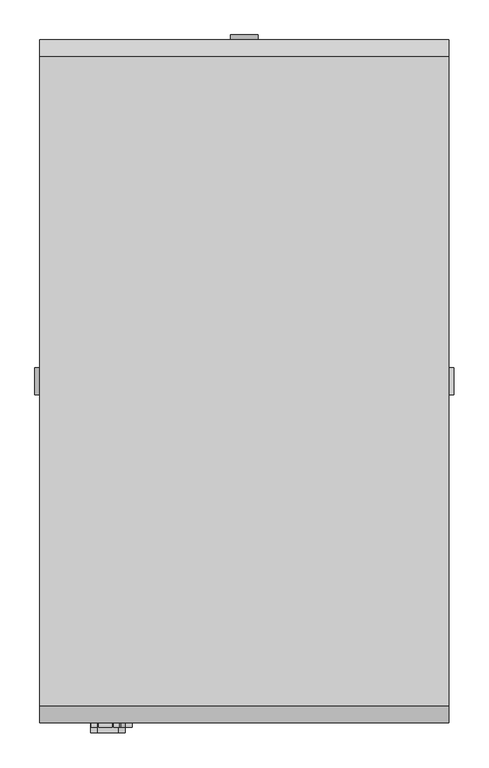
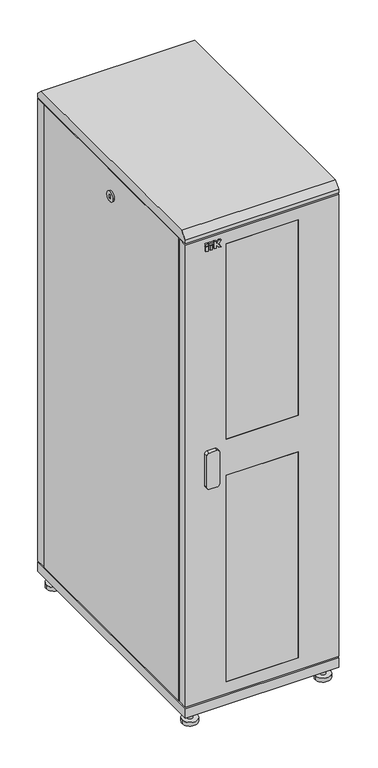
"""IFC4 building model written with IfcOpenShell, lengths in millimetres: proxy geometry, Шкафы ITK серия S_PP : LS35-42U61-PP-1."""

from ifc_helpers import new_model, si_unit, point, frame, frame_2d, origin, origin_with_axes, place, context, project, spatial, polyline, circle_curve, trimmed, segment, composite_curve, outline, extrude, faceted_brep, source, transform, mapped, element, save


def electrical_fixtures_315027d0(model_context):
    return source(origin(), model_context, "Body", "SolidModel", [
        extrude(outline(polyline([(-215.9746193, -507.0), (-224.197592, -507.0), (-224.197592, -500.0), (-215.9746193, -500.0), (-215.9746193, -507.0)])), frame((0.0, 0.0, 1955.0), z_axis=(0.0, 0.0, 1.0), x_axis=(1.0, 0.0, 0.0)), (0.0, 0.0, 1.0), 18.8087618),
        extrude(outline(polyline([(-199.9605777, -507.0), (-207.7053315, -507.0), (-207.7053315, -500.0), (-199.9605777, -500.0), (-199.9605777, -507.0)])), frame((0.0, 0.0, 1955.0), z_axis=(0.0, 0.0, 1.0), x_axis=(1.0, 0.0, 0.0)), (0.0, 0.0, 1.0), 18.8087618),
        extrude(outline(polyline([(-215.9746193, -507.0), (-224.197592, -507.0), (-224.197592, -500.0), (-215.9746193, -500.0), (-215.9746193, -507.0)])), frame((0.0, 0.0, 1976.4305892), z_axis=(0.0, 0.0, 1.0), x_axis=(1.0, 0.0, 0.0)), (0.0, 0.0, 1.0), 7.9794747),
        extrude(outline(polyline([(1955.0, -191.5184175), (1955.0, -183.7669278), (1966.0271455, -183.7669278), (1966.0271455, -180.8031229), (1955.0, -173.6420108), (1955.0, -164.197592), (1969.7278745, -174.8980192), (1984.410064, -164.197592), (1984.410064, -173.6420108), (1973.3829184, -180.8031229), (1973.3829184, -183.7669278), (1984.410064, -183.7669278), (1984.410064, -191.5184175), (1955.0, -191.5184175)])), frame((0.0, -507.0, 0.0), z_axis=(0.0, 1.0, 0.0), x_axis=(0.0, 0.0, 1.0)), (0.0, 0.0, 1.0), 7.0),
        extrude(outline(polyline([(-194.0851324, -507.0), (-213.5807768, -507.0), (-213.5807768, -500.0), (-194.0851324, -500.0), (-194.0851324, -507.0)])), frame((0.0, 0.0, 1976.4305892), z_axis=(0.0, 0.0, 1.0), x_axis=(1.0, 0.0, 0.0)), (0.0, 0.0, 1.0), 7.9794747),
        extrude(outline(composite_curve([segment(polyline([(1125.0, -185.0), (1125.0, -215.0)]), True, "CONTINUOUS"), segment(trimmed(circle_curve(frame_2d((1115.0, -215.0)), 10.0), [point((1125.0, -215.0))], [point((1115.0, -225.0))], False, "CARTESIAN"), True, "CONTINUOUS"), segment(polyline([(1115.0, -225.0), (985.0, -225.0)]), True, "CONTINUOUS"), segment(trimmed(circle_curve(frame_2d((985.0, -215.0)), 10.0), [point((985.0, -225.0))], [point((975.0, -215.0))], False, "CARTESIAN"), True, "CONTINUOUS"), segment(polyline([(975.0, -215.0), (975.0, -185.0)]), True, "CONTINUOUS"), segment(trimmed(circle_curve(frame_2d((985.0, -185.0)), 10.0), [point((975.0, -185.0))], [point((985.0, -175.0))], False, "CARTESIAN"), True, "CONTINUOUS"), segment(polyline([(985.0, -175.0), (1115.0, -175.0)]), True, "CONTINUOUS"), segment(trimmed(circle_curve(frame_2d((1115.0, -185.0)), 10.0), [point((1115.0, -175.0))], [point((1125.0, -185.0))], False, "CARTESIAN"), True, "CONTINUOUS")], self_intersect=False)), frame((0.0, -515.0, 0.0), z_axis=(0.0, 1.0, 0.0), x_axis=(0.0, 0.0, 1.0)), (0.0, 0.0, 1.0), 15.0),
        faceted_brep([(-260.0, -480.0, 2005.0), (-260.0, -445.0, 2005.0), (-270.0, -445.0, 2005.0), (-270.0, -460.0, 2005.0), (-300.0, -460.0, 2005.0), (-300.0, -500.0, 2005.0), (300.0, -500.0, 2005.0), (300.0, -460.0, 2005.0), (270.0, -460.0, 2005.0), (270.0, -445.0, 2005.0), (260.0, -445.0, 2005.0), (260.0, -480.0, 2005.0), (-300.0, -500.0, 95.0), (-300.0, -460.0, 95.0), (-270.0, -460.0, 95.0), (-270.0, -445.0, 95.0), (-260.0, -445.0, 95.0), (-260.0, -480.0, 95.0), (260.0, -480.0, 95.0), (260.0, -445.0, 95.0), (270.0, -445.0, 95.0), (270.0, -460.0, 95.0), (300.0, -460.0, 95.0), (300.0, -500.0, 95.0), (-140.0, -500.0, 997.5), (140.0, -500.0, 997.5), (140.0, -500.0, 145.0), (-140.0, -500.0, 145.0), (-140.0, -500.0, 1955.0), (140.0, -500.0, 1955.0), (140.0, -500.0, 1147.5), (-140.0, -500.0, 1147.5), (-140.0, -480.0, 145.0), (140.0, -480.0, 145.0), (140.0, -480.0, 997.5), (-140.0, -480.0, 997.5), (-140.0, -480.0, 1147.5), (140.0, -480.0, 1147.5), (140.0, -480.0, 1955.0), (-140.0, -480.0, 1955.0)], [[[0, 1, 2, 3, 4, 5, 6, 7, 8, 9, 10, 11]], [[12, 13, 14, 15, 16, 17, 18, 19, 20, 21, 22, 23]], [[6, 5, 12, 23], [24, 25, 26, 27], [28, 29, 30, 31]], [[5, 4, 13, 12]], [[4, 3, 14, 13]], [[0, 11, 18, 17], [32, 33, 34, 35], [36, 37, 38, 39]], [[32, 35, 24, 27]], [[36, 39, 28, 31]], [[34, 33, 26, 25]], [[38, 37, 30, 29]], [[27, 26, 33, 32]], [[31, 30, 37, 36]], [[25, 24, 35, 34]], [[29, 28, 39, 38]], [[1, 0, 17, 16]], [[2, 1, 16, 15]], [[3, 2, 15, 14]], [[7, 6, 23, 22]], [[8, 7, 22, 21]], [[9, 8, 21, 20]], [[10, 9, 20, 19]], [[11, 10, 19, 18]]]),
        extrude(outline(polyline([(140.0, -500.0), (-140.0, -500.0), (-140.0, -480.0), (140.0, -480.0), (140.0, -500.0)])), frame((0.0, 0.0, 1147.5), z_axis=(0.0, 0.0, 1.0), x_axis=(1.0, 0.0, 0.0)), (0.0, 0.0, 1.0), 807.5),
        extrude(outline(polyline([(140.0, -500.0), (-140.0, -500.0), (-140.0, -480.0), (140.0, -480.0), (140.0, -500.0)])), frame((0.0, 0.0, 145.0), z_axis=(0.0, 0.0, 1.0), x_axis=(1.0, 0.0, 0.0)), (0.0, 0.0, 1.0), 852.5),
        extrude(outline(composite_curve([segment(trimmed(circle_curve(frame_2d((-260.0, 460.0)), 10.0), [point((-250.0, 460.0))], [point((-270.0, 460.0))], False, "CARTESIAN"), True, "CONTINUOUS"), segment(trimmed(circle_curve(frame_2d((-260.0, 460.0)), 10.0), [point((-270.0, 460.0))], [point((-250.0, 460.0))], False, "CARTESIAN"), True, "CONTINUOUS")], self_intersect=False)), frame((0.0, 0.0, 15.0), z_axis=(0.0, 0.0, 1.0), x_axis=(1.0, 0.0, 0.0)), (0.0, 0.0, 1.0), 35.0),
        extrude(outline(composite_curve([segment(trimmed(circle_curve(frame_2d((260.0, 460.0)), 10.0), [point((270.0, 460.0))], [point((250.0, 460.0))], False, "CARTESIAN"), True, "CONTINUOUS"), segment(trimmed(circle_curve(frame_2d((260.0, 460.0)), 10.0), [point((250.0, 460.0))], [point((270.0, 460.0))], False, "CARTESIAN"), True, "CONTINUOUS")], self_intersect=False)), frame((0.0, 0.0, 15.0), z_axis=(0.0, 0.0, 1.0), x_axis=(1.0, 0.0, 0.0)), (0.0, 0.0, 1.0), 35.0),
        extrude(outline(composite_curve([segment(trimmed(circle_curve(frame_2d((-260.0, -460.0)), 10.0), [point((-250.0, -460.0))], [point((-270.0, -460.0))], False, "CARTESIAN"), True, "CONTINUOUS"), segment(trimmed(circle_curve(frame_2d((-260.0, -460.0)), 10.0), [point((-270.0, -460.0))], [point((-250.0, -460.0))], False, "CARTESIAN"), True, "CONTINUOUS")], self_intersect=False)), frame((0.0, 0.0, 15.0), z_axis=(0.0, 0.0, 1.0), x_axis=(1.0, 0.0, 0.0)), (0.0, 0.0, 1.0), 35.0),
        extrude(outline(composite_curve([segment(trimmed(circle_curve(frame_2d((260.0, -460.0)), 10.0), [point((270.0, -460.0))], [point((250.0, -460.0))], False, "CARTESIAN"), True, "CONTINUOUS"), segment(trimmed(circle_curve(frame_2d((260.0, -460.0)), 10.0), [point((250.0, -460.0))], [point((270.0, -460.0))], False, "CARTESIAN"), True, "CONTINUOUS")], self_intersect=False)), frame((0.0, 0.0, 15.0), z_axis=(0.0, 0.0, 1.0), x_axis=(1.0, 0.0, 0.0)), (0.0, 0.0, 1.0), 35.0),
        extrude(outline(composite_curve([segment(trimmed(circle_curve(frame_2d((-260.0, 460.0)), 30.0), [point((-230.0, 460.0))], [point((-290.0, 460.0))], False, "CARTESIAN"), True, "CONTINUOUS"), segment(trimmed(circle_curve(frame_2d((-260.0, 460.0)), 30.0), [point((-290.0, 460.0))], [point((-230.0, 460.0))], False, "CARTESIAN"), True, "CONTINUOUS")], self_intersect=False)), origin_with_axes(), (0.0, 0.0, 1.0), 15.0),
        extrude(outline(composite_curve([segment(trimmed(circle_curve(frame_2d((260.0, 460.0)), 30.0), [point((290.0, 460.0))], [point((230.0, 460.0))], False, "CARTESIAN"), True, "CONTINUOUS"), segment(trimmed(circle_curve(frame_2d((260.0, 460.0)), 30.0), [point((230.0, 460.0))], [point((290.0, 460.0))], False, "CARTESIAN"), True, "CONTINUOUS")], self_intersect=False)), origin_with_axes(), (0.0, 0.0, 1.0), 15.0),
        extrude(outline(composite_curve([segment(trimmed(circle_curve(frame_2d((-260.0, -460.0)), 30.0), [point((-230.0, -460.0))], [point((-290.0, -460.0))], False, "CARTESIAN"), True, "CONTINUOUS"), segment(trimmed(circle_curve(frame_2d((-260.0, -460.0)), 30.0), [point((-290.0, -460.0))], [point((-230.0, -460.0))], False, "CARTESIAN"), True, "CONTINUOUS")], self_intersect=False)), origin_with_axes(), (0.0, 0.0, 1.0), 15.0),
        extrude(outline(composite_curve([segment(trimmed(circle_curve(frame_2d((260.0, -460.0)), 30.0), [point((290.0, -460.0))], [point((230.0, -460.0))], False, "CARTESIAN"), True, "CONTINUOUS"), segment(trimmed(circle_curve(frame_2d((260.0, -460.0)), 30.0), [point((230.0, -460.0))], [point((290.0, -460.0))], False, "CARTESIAN"), True, "CONTINUOUS")], self_intersect=False)), origin_with_axes(), (0.0, 0.0, 1.0), 15.0),
        extrude(outline(polyline([(-475.0, 2050.0), (475.0, 2050.0), (500.0, 2025.0), (500.0, 2010.0), (-500.0, 2010.0), (-500.0, 2025.0), (-475.0, 2050.0)])), frame((-300.0, 0.0, 0.0), z_axis=(1.0, 0.0, 0.0), x_axis=(0.0, 1.0, 0.0)), (0.0, 0.0, 1.0), 600.0),
        extrude(outline(polyline([(260.0, 460.0), (260.0, 445.0), (290.0, 445.0), (290.0, -445.0), (260.0, -445.0), (260.0, -460.0), (245.0, -460.0), (245.0, -480.0), (-245.0, -480.0), (-245.0, -460.0), (-260.0, -460.0), (-260.0, -445.0), (-290.0, -445.0), (-290.0, 445.0), (-260.0, 445.0), (-260.0, 460.0), (-245.0, 460.0), (-245.0, 490.0), (245.0, 490.0), (245.0, 460.0), (260.0, 460.0)])), frame((0.0, 0.0, 90.0), z_axis=(0.0, 0.0, 1.0), x_axis=(1.0, 0.0, 0.0)), (0.0, 0.0, 1.0), 5.0),
        extrude(outline(polyline([(260.0, 460.0), (260.0, 445.0), (290.0, 445.0), (290.0, -445.0), (260.0, -445.0), (260.0, -460.0), (245.0, -460.0), (245.0, -480.0), (-245.0, -480.0), (-245.0, -460.0), (-260.0, -460.0), (-260.0, -445.0), (-290.0, -445.0), (-290.0, 445.0), (-260.0, 445.0), (-260.0, 460.0), (-245.0, 460.0), (-245.0, 490.0), (245.0, 490.0), (245.0, 460.0), (260.0, 460.0)])), frame((0.0, 0.0, 2005.0), z_axis=(0.0, 0.0, 1.0), x_axis=(1.0, 0.0, 0.0)), (0.0, 0.0, 1.0), 5.0),
        extrude(outline(polyline([(300.0, -500.0), (-300.0, -500.0), (-300.0, 500.0), (300.0, 500.0), (300.0, -500.0)])), frame((0.0, 0.0, 50.0), z_axis=(0.0, 0.0, 1.0), x_axis=(1.0, 0.0, 0.0)), (0.0, 0.0, 1.0), 40.0),
        extrude(outline(composite_curve([segment(trimmed(circle_curve(frame_2d((1905.0, 0.0)), 20.0), [point((1905.0, 20.0))], [point((1905.0, -20.0))], False, "CARTESIAN"), True, "CONTINUOUS"), segment(trimmed(circle_curve(frame_2d((1905.0, 0.0)), 20.0), [point((1905.0, -20.0))], [point((1905.0, 20.0))], False, "CARTESIAN"), True, "CONTINUOUS")], self_intersect=False), holes=[polyline([(1896.7814397, -3.0), (1913.2185603, -3.0), (1913.2185603, 3.0), (1896.7814397, 3.0), (1896.7814397, -3.0)])]), frame((0.0, 500.0, 0.0), z_axis=(0.0, 1.0, 0.0), x_axis=(0.0, 0.0, 1.0)), (0.0, 0.0, 1.0), 7.0),
        extrude(outline(polyline([(300.0, 500.0), (300.0, 460.0), (270.0, 460.0), (270.0, 445.0), (260.0, 445.0), (260.0, 490.0), (-260.0, 490.0), (-260.0, 445.0), (-270.0, 445.0), (-270.0, 460.0), (-300.0, 460.0), (-300.0, 500.0), (300.0, 500.0)])), frame((0.0, 0.0, 95.0), z_axis=(0.0, 0.0, 1.0), x_axis=(1.0, 0.0, 0.0)), (0.0, 0.0, 1.0), 1910.0),
        extrude(outline(composite_curve([segment(trimmed(circle_curve(frame_2d((0.0, 1905.0)), 20.0), [point((-20.0, 1905.0))], [point((20.0, 1905.0))], False, "CARTESIAN"), True, "CONTINUOUS"), segment(trimmed(circle_curve(frame_2d((0.0, 1905.0)), 20.0), [point((20.0, 1905.0))], [point((-20.0, 1905.0))], False, "CARTESIAN"), True, "CONTINUOUS")], self_intersect=False), holes=[polyline([(3.0, 1896.7814397), (3.0, 1913.2185603), (-3.0, 1913.2185603), (-3.0, 1896.7814397), (3.0, 1896.7814397)])]), frame((300.0, 0.0, 0.0), z_axis=(1.0, 0.0, 0.0), x_axis=(0.0, 1.0, 0.0)), (0.0, 0.0, 1.0), 7.0),
        extrude(outline(composite_curve([segment(trimmed(circle_curve(frame_2d((0.0, 1905.0)), 20.0), [point((20.0, 1905.0))], [point((-20.0, 1905.0))], False, "CARTESIAN"), True, "CONTINUOUS"), segment(trimmed(circle_curve(frame_2d((0.0, 1905.0)), 20.0), [point((-20.0, 1905.0))], [point((20.0, 1905.0))], False, "CARTESIAN"), True, "CONTINUOUS")], self_intersect=False), holes=[polyline([(-3.0, 1896.7814397), (3.0, 1896.7814397), (3.0, 1913.2185603), (-3.0, 1913.2185603), (-3.0, 1896.7814397)])]), frame((-307.0, 0.0, 0.0), z_axis=(1.0, 0.0, 0.0), x_axis=(0.0, 1.0, 0.0)), (0.0, 0.0, 1.0), 7.0),
        extrude(outline(polyline([(-270.0, 455.0), (-270.0, 445.0), (-289.9803177, 445.0), (-289.9803177, -445.0), (-269.9803177, -445.0), (-269.9803177, -455.0), (-300.0, -455.0), (-300.0, 455.0), (-270.0, 455.0)])), frame((0.0, 0.0, 95.0), z_axis=(0.0, 0.0, 1.0), x_axis=(1.0, 0.0, 0.0)), (0.0, 0.0, 1.0), 1910.0),
        extrude(outline(polyline([(269.9803177, 455.0), (300.0, 455.0), (300.0, -455.0), (269.9803177, -455.0), (269.9803177, -445.0), (289.9803177, -445.0), (289.9803177, 445.0), (269.9803177, 445.0), (269.9803177, 455.0)])), frame((0.0, 0.0, 95.0), z_axis=(0.0, 0.0, 1.0), x_axis=(1.0, 0.0, 0.0)), (0.0, 0.0, 1.0), 1910.0),
    ])


if __name__ == "__main__":
    model = new_model("IFC4")
    model_context = context("Model", 3, world=origin())
    ifc_project = project(units=[si_unit("LENGTHUNIT", "METRE", prefix="MILLI")], contexts=[model_context])
    site = spatial("IfcSite", under=ifc_project)
    building = spatial("IfcBuilding", under=site)
    placement = place(None, origin())
    electrical_fixtures_shape = electrical_fixtures_315027d0(model_context)
    element("IfcBuildingElementProxy", 1, Name="Шкафы ITK серия S_PP : LS35-42U61-PP-1", ObjectType="Шкафы ITK серия S_PP : LS35-42U61-PP-1", at=placement, inside=building, context=model_context, shape_type="MappedRepresentation", body=[
        mapped(electrical_fixtures_shape, transform((0.0, 0.0, 0.0), x_axis=(1.0, 0.0, 0.0), y_axis=(0.0, 1.0, 0.0), z_axis=(0.0, 0.0, 1.0))),
    ])
    save(model, "model.ifc")
